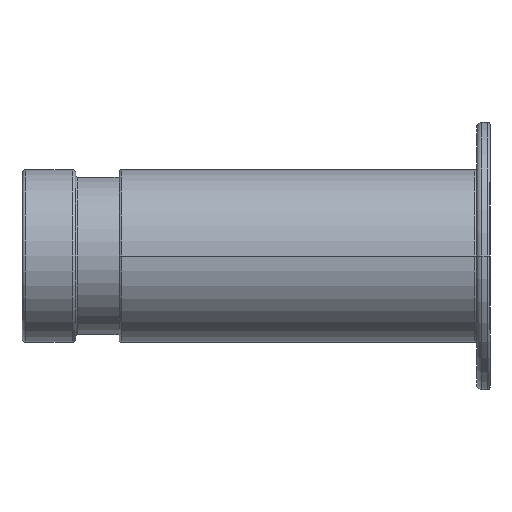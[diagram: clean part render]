
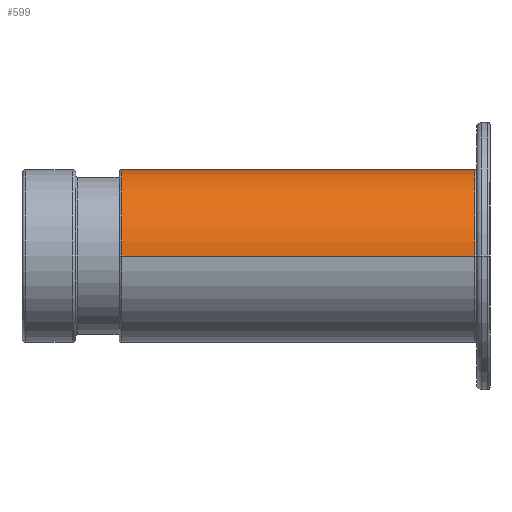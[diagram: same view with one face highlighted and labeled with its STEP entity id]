
A CAD part, left-side view. The second image highlights one B-rep face of the part: STEP entity #599.
In plain terms, the highlighted cylindrical face has radius 16 mm (diameter 32 mm), a partial arc.
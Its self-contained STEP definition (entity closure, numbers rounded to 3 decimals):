
#46=CARTESIAN_POINT('',(0.,65.8,0.));
#47=DIRECTION('',(0.,1.,0.));
#48=DIRECTION('',(-1.,0.,0.));
#49=AXIS2_PLACEMENT_3D('',#46,#47,#48);
#51=CARTESIAN_POINT('',(0.,0.3,0.));
#52=DIRECTION('',(0.,1.,0.));
#53=DIRECTION('',(-1.,0.,0.));
#54=AXIS2_PLACEMENT_3D('',#51,#52,#53);
#81=DIRECTION('',(0.,1.,0.));
#82=VECTOR('',#81,65.5);
#83=CARTESIAN_POINT('',(-16.,0.3,0.));
#84=LINE('',#83,#82);
#90=DIRECTION('',(0.,1.,0.));
#91=VECTOR('',#90,65.5);
#92=CARTESIAN_POINT('',(16.,0.3,0.));
#93=LINE('',#92,#91);
#488=CARTESIAN_POINT('',(-16.,65.8,0.));
#489=CARTESIAN_POINT('',(16.,65.8,0.));
#490=VERTEX_POINT('',#488);
#491=VERTEX_POINT('',#489);
#492=CARTESIAN_POINT('',(16.,0.3,0.));
#493=CARTESIAN_POINT('',(-16.,0.3,0.));
#494=VERTEX_POINT('',#492);
#495=VERTEX_POINT('',#493);
#584=CARTESIAN_POINT('',(0.,69.615,0.));
#585=DIRECTION('',(0.,-1.,0.));
#586=DIRECTION('',(-1.,0.,0.));
#587=AXIS2_PLACEMENT_3D('',#584,#585,#586);
#588=CYLINDRICAL_SURFACE('',#587,16.);
#590=ORIENTED_EDGE('',*,*,#589,.T.);
#592=ORIENTED_EDGE('',*,*,#591,.F.);
#594=ORIENTED_EDGE('',*,*,#593,.F.);
#596=ORIENTED_EDGE('',*,*,#595,.T.);
#597=EDGE_LOOP('',(#590,#592,#594,#596));
#598=FACE_OUTER_BOUND('',#597,.F.);
#50=CIRCLE('',#49,16.);
#55=CIRCLE('',#54,16.);
#589=EDGE_CURVE('',#490,#491,#50,.T.);
#591=EDGE_CURVE('',#494,#491,#93,.T.);
#593=EDGE_CURVE('',#495,#494,#55,.T.);
#595=EDGE_CURVE('',#495,#490,#84,.T.);
#599=ADVANCED_FACE('',(#598),#588,.T.);
